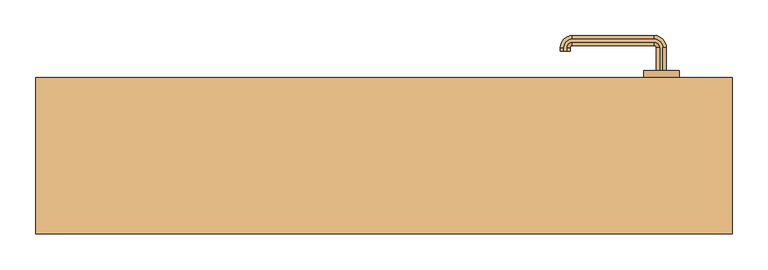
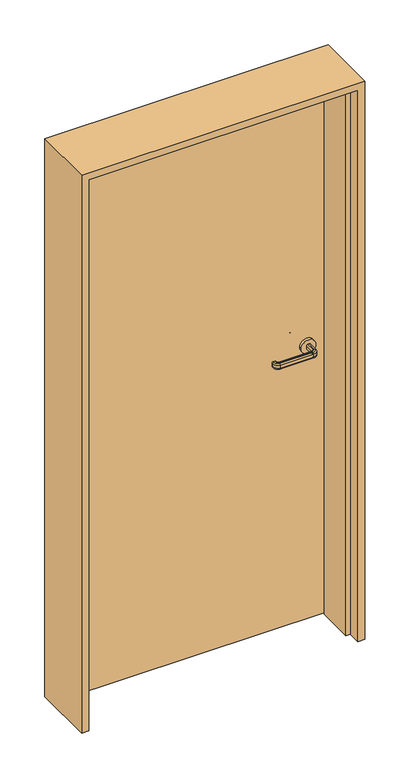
"""IFC4 building model written with IfcOpenShell, lengths in millimetres: door geometry, A1 片開 フラッシュ_A1枠 : SD13_H2000W900."""

from ifc_helpers import new_model, si_unit, point, frame, frame_2d, origin, place, context, project, spatial, polyline, circle_curve, ellipse_curve, trimmed, segment, composite_curve, outline, extrude, faceted_brep, source, transform, mapped, element, save
from ifc_brep_helpers import plane_surface, cylinder_surface, revolved_surface, advanced_brep


def door_d7f882ca(model_context):
    return source(origin(), model_context, "Body", "SolidModel", [
        advanced_brep(
        [(392.0, 120.0, 1015.0), (388.0, 120.0, 1015.0), (383.0, 120.0, 1010.0), (383.0, 120.0, 1000.0477623), (388.0, 120.0, 995.0477623), (392.0, 120.0, 995.0477623), (397.0, 120.0, 1000.0477623), (397.0, 120.0, 1010.0), (397.0, 152.5, 1010.0), (392.0, 152.5, 1015.0), (397.0, 152.5, 1000.0477623), (392.0, 152.5, 995.0477623), (388.0, 152.5, 995.0477623), (380.0, 160.5, 995.0477623), (265.0, 160.5, 995.0477623), (257.0, 152.5, 995.0477623), (257.0, 147.5, 995.0477623), (253.0, 147.5, 995.0477623), (253.0, 152.5, 995.0477623), (265.0, 164.5, 995.0477623), (380.0, 164.5, 995.0477623), (383.0, 152.5, 1000.0477623), (383.0, 152.5, 1010.0), (388.0, 152.5, 1015.0), (380.0, 164.5, 1015.0), (265.0, 164.5, 1015.0), (253.0, 152.5, 1015.0), (253.0, 147.5, 1015.0), (257.0, 147.5, 1015.0), (257.0, 152.5, 1015.0), (265.0, 160.5, 1015.0), (380.0, 160.5, 1015.0), (380.0, 169.5, 1010.0), (380.0, 169.5, 1000.0477623), (380.0, 155.5, 1000.0477623), (380.0, 155.5, 1010.0), (265.0, 169.5, 1010.0), (265.0, 169.5, 1000.0477623), (265.0, 155.5, 1000.0477623), (265.0, 155.5, 1010.0), (248.0, 152.5, 1010.0), (248.0, 152.5, 1000.0477623), (262.0, 152.5, 1000.0477623), (262.0, 152.5, 1010.0), (248.0, 147.5, 1010.0), (248.0, 147.5, 1000.0477623), (262.0, 147.5, 1000.0477623), (262.0, 147.5, 1010.0)],
        [
            (0, 1),
            (1, 2, circle_curve(frame((388.0, 120.0, 1010.0), z_axis=(0.0, -1.0, 0.0), x_axis=(1.0, 0.0, 0.0)), 5.0)),
            (2, 3),
            (3, 4, circle_curve(frame((388.0, 120.0, 1000.0477623), z_axis=(0.0, -1.0, 0.0), x_axis=(1.0, 0.0, 0.0)), 5.0)),
            (4, 5),
            (5, 6, circle_curve(frame((392.0, 120.0, 1000.0477623), z_axis=(0.0, -1.0, 0.0), x_axis=(1.0, 0.0, 0.0)), 5.0)),
            (6, 7),
            (7, 0, circle_curve(frame((392.0, 120.0, 1010.0), z_axis=(0.0, -1.0, 0.0), x_axis=(1.0, 0.0, 0.0)), 5.0)),
            (7, 8),
            (8, 9, circle_curve(frame((392.0, 152.5, 1010.0), z_axis=(0.0, -1.0, 0.0), x_axis=(1.0, 0.0, 0.0)), 5.0)),
            (9, 0),
            (6, 10),
            (10, 8),
            (5, 11),
            (11, 10, circle_curve(frame((392.0, 152.5, 1000.0477623), z_axis=(0.0, -1.0, 0.0), x_axis=(1.0, 0.0, 0.0)), 5.0)),
            (4, 12),
            (12, 13, circle_curve(frame((380.0, 152.5, 995.0477623), z_axis=(0.0, 0.0, 1.0), x_axis=(1.0, 0.0, 0.0)), 8.0)),
            (13, 14),
            (14, 15, circle_curve(frame((265.0, 152.5, 995.0477623), z_axis=(0.0, 0.0, 1.0), x_axis=(0.0, 1.0, 0.0)), 8.0)),
            (15, 16),
            (16, 17),
            (17, 18),
            (18, 19, circle_curve(frame((265.0, 152.5, 995.0477623), z_axis=(0.0, 0.0, -1.0), x_axis=(0.0, 1.0, 0.0)), 12.0)),
            (19, 20),
            (20, 11, circle_curve(frame((380.0, 152.5, 995.0477623), z_axis=(0.0, 0.0, -1.0), x_axis=(1.0, 0.0, 0.0)), 12.0)),
            (3, 21),
            (21, 12, circle_curve(frame((388.0, 152.5, 1000.0477623), z_axis=(0.0, -1.0, 0.0), x_axis=(1.0, 0.0, 0.0)), 5.0)),
            (2, 22),
            (22, 21),
            (1, 23),
            (23, 22, circle_curve(frame((388.0, 152.5, 1010.0), z_axis=(0.0, -1.0, 0.0), x_axis=(1.0, 0.0, 0.0)), 5.0)),
            (9, 24, circle_curve(frame((380.0, 152.5, 1015.0), z_axis=(0.0, 0.0, 1.0), x_axis=(1.0, 0.0, 0.0)), 12.0)),
            (24, 25),
            (25, 26, circle_curve(frame((265.0, 152.5, 1015.0), z_axis=(0.0, 0.0, 1.0), x_axis=(0.0, 1.0, 0.0)), 12.0)),
            (26, 27),
            (27, 28),
            (28, 29),
            (29, 30, circle_curve(frame((265.0, 152.5, 1015.0), z_axis=(0.0, 0.0, -1.0), x_axis=(0.0, 1.0, 0.0)), 8.0)),
            (30, 31),
            (31, 23, circle_curve(frame((380.0, 152.5, 1015.0), z_axis=(0.0, 0.0, -1.0), x_axis=(1.0, 0.0, 0.0)), 8.0)),
            (32, 24, circle_curve(frame((380.0, 164.5, 1010.0), z_axis=(1.0, 0.0, 0.0), x_axis=(0.0, 1.0, 0.0)), 5.0)),
            (8, 32, circle_curve(frame((380.0, 152.5, 1010.0), z_axis=(0.0, 0.0, 1.0), x_axis=(1.0, 0.0, 0.0)), 17.0)),
            (33, 32),
            (10, 33, circle_curve(frame((380.0, 152.5, 1000.0477623), z_axis=(0.0, 0.0, 1.0), x_axis=(1.0, 0.0, 0.0)), 17.0)),
            (20, 33, circle_curve(frame((380.0, 164.5, 1000.0477623), z_axis=(1.0, 0.0, 0.0), x_axis=(0.0, 1.0, 0.0)), 5.0)),
            (34, 13, circle_curve(frame((380.0, 160.5, 1000.0477623), z_axis=(1.0, 0.0, 0.0), x_axis=(0.0, 1.0, 0.0)), 5.0)),
            (21, 34, circle_curve(frame((380.0, 152.5, 1000.0477623), z_axis=(0.0, 0.0, 1.0), x_axis=(1.0, 0.0, 0.0)), 3.0)),
            (35, 34),
            (22, 35, circle_curve(frame((380.0, 152.5, 1010.0), z_axis=(0.0, 0.0, 1.0), x_axis=(1.0, 0.0, 0.0)), 3.0)),
            (31, 35, circle_curve(frame((380.0, 160.5, 1010.0), z_axis=(1.0, 0.0, 0.0), x_axis=(0.0, 1.0, 0.0)), 5.0)),
            (32, 36),
            (36, 25, circle_curve(frame((265.0, 164.5, 1010.0), z_axis=(1.0, 0.0, 0.0), x_axis=(0.0, 1.0, 0.0)), 5.0)),
            (33, 37),
            (37, 36),
            (19, 37, circle_curve(frame((265.0, 164.5, 1000.0477623), z_axis=(1.0, 0.0, 0.0), x_axis=(0.0, 1.0, 0.0)), 5.0)),
            (34, 38),
            (38, 14, circle_curve(frame((265.0, 160.5, 1000.0477623), z_axis=(1.0, 0.0, 0.0), x_axis=(0.0, 1.0, 0.0)), 5.0)),
            (35, 39),
            (39, 38),
            (30, 39, circle_curve(frame((265.0, 160.5, 1010.0), z_axis=(1.0, 0.0, 0.0), x_axis=(0.0, 1.0, 0.0)), 5.0)),
            (40, 26, circle_curve(frame((253.0, 152.5, 1010.0), z_axis=(0.0, 1.0, 0.0), x_axis=(-1.0, 0.0, 0.0)), 5.0)),
            (36, 40, circle_curve(frame((265.0, 152.5, 1010.0), z_axis=(0.0, 0.0, 1.0), x_axis=(0.0, 1.0, 0.0)), 17.0)),
            (41, 40),
            (37, 41, circle_curve(frame((265.0, 152.5, 1000.0477623), z_axis=(0.0, 0.0, 1.0), x_axis=(0.0, 1.0, 0.0)), 17.0)),
            (18, 41, circle_curve(frame((253.0, 152.5, 1000.0477623), z_axis=(0.0, 1.0, 0.0), x_axis=(-1.0, 0.0, 0.0)), 5.0)),
            (42, 15, circle_curve(frame((257.0, 152.5, 1000.0477623), z_axis=(0.0, 1.0, 0.0), x_axis=(-1.0, 0.0, 0.0)), 5.0)),
            (38, 42, circle_curve(frame((265.0, 152.5, 1000.0477623), z_axis=(0.0, 0.0, 1.0), x_axis=(0.0, 1.0, 0.0)), 3.0)),
            (43, 42),
            (39, 43, circle_curve(frame((265.0, 152.5, 1010.0), z_axis=(0.0, 0.0, 1.0), x_axis=(0.0, 1.0, 0.0)), 3.0)),
            (29, 43, circle_curve(frame((257.0, 152.5, 1010.0), z_axis=(0.0, 1.0, 0.0), x_axis=(-1.0, 0.0, 0.0)), 5.0)),
            (27, 44, circle_curve(frame((253.0, 147.5, 1010.0), z_axis=(0.0, -1.0, 0.0), x_axis=(-1.0, 0.0, 0.0)), 5.0)),
            (44, 45),
            (45, 17, circle_curve(frame((253.0, 147.5, 1000.0477623), z_axis=(0.0, -1.0, 0.0), x_axis=(-1.0, 0.0, 0.0)), 5.0)),
            (16, 46, circle_curve(frame((257.0, 147.5, 1000.0477623), z_axis=(0.0, -1.0, 0.0), x_axis=(-1.0, 0.0, 0.0)), 5.0)),
            (46, 47),
            (47, 28, circle_curve(frame((257.0, 147.5, 1010.0), z_axis=(0.0, -1.0, 0.0), x_axis=(-1.0, 0.0, 0.0)), 5.0)),
            (40, 44),
            (41, 45),
            (42, 46),
            (43, 47),
        ],
        [
            plane_surface(frame((400.198039, 120.0, 1005.0), z_axis=(0.0, -1.0, 0.0), x_axis=(0.0, 0.0, 1.0))),
            cylinder_surface(frame((392.0, 120.0, 1010.0), z_axis=(0.0, -1.0, 0.0), x_axis=(1.0, 0.0, 0.0)), 5.0),
            plane_surface(frame((397.0, 120.0, 1010.0), z_axis=(1.0, 0.0, 0.0), x_axis=(0.0, 1.0, 0.0))),
            cylinder_surface(frame((392.0, 120.0, 1000.0477623), z_axis=(0.0, -1.0, 0.0), x_axis=(1.0, 0.0, 0.0)), 5.0),
            plane_surface(frame((392.0, 120.0, 995.0477623), z_axis=(0.0, 0.0, -1.0), x_axis=(0.0, 1.0, 0.0))),
            cylinder_surface(frame((388.0, 120.0, 1000.0477623), z_axis=(0.0, -1.0, 0.0), x_axis=(1.0, 0.0, 0.0)), 5.0),
            plane_surface(frame((383.0, 120.0, 1000.0477623), z_axis=(-1.0, 0.0, 0.0), x_axis=(0.0, 1.0, 0.0))),
            cylinder_surface(frame((388.0, 120.0, 1010.0), z_axis=(0.0, -1.0, 0.0), x_axis=(1.0, 0.0, 0.0)), 5.0),
            plane_surface(frame((388.0, 120.0, 1015.0), z_axis=(0.0, 0.0, 1.0), x_axis=(0.0, 1.0, 0.0))),
            revolved_surface(trimmed(ellipse_curve(frame((392.0, 152.5, 1010.0), z_axis=(0.0, 1.0, 0.0), x_axis=(1.0, 0.0, 0.0)), 5.0, 5.0), [point((392.0, 152.5, 1015.0))], [point((397.0, 152.5, 1010.0))], True, "CARTESIAN"), (380.0, 152.5, 1005.0), (0.0, 0.0, -1.0)),
            cylinder_surface(frame((380.0, 152.5, 1005.0), z_axis=(0.0, 0.0, -1.0), x_axis=(1.0, 0.0, 0.0)), 17.0),
            revolved_surface(trimmed(ellipse_curve(frame((392.0, 152.5, 1000.0477623), z_axis=(0.0, 1.0, 0.0), x_axis=(1.0, 0.0, 0.0)), 5.0, 5.0), [point((397.0, 152.5, 1000.0477623))], [point((392.0, 152.5, 995.0477623))], True, "CARTESIAN"), (380.0, 152.5, 1005.0), (0.0, 0.0, -1.0)),
            revolved_surface(trimmed(ellipse_curve(frame((388.0, 152.5, 1000.0477623), z_axis=(0.0, 1.0, 0.0), x_axis=(1.0, 0.0, 0.0)), 5.0, 5.0), [point((388.0, 152.5, 995.0477623))], [point((383.0, 152.5, 1000.0477623))], True, "CARTESIAN"), (380.0, 152.5, 1005.0), (0.0, 0.0, -1.0)),
            revolved_surface(polyline([(383.0, 152.5, 1000.0477623), (383.0, 152.5, 1010.0)]), (380.0, 152.5, 1005.0), (0.0, 0.0, -1.0)),
            revolved_surface(trimmed(ellipse_curve(frame((388.0, 152.5, 1010.0), z_axis=(0.0, 1.0, 0.0), x_axis=(1.0, 0.0, 0.0)), 5.0, 5.0), [point((383.0, 152.5, 1010.0))], [point((388.0, 152.5, 1015.0))], True, "CARTESIAN"), (380.0, 152.5, 1005.0), (0.0, 0.0, -1.0)),
            cylinder_surface(frame((380.0, 164.5, 1010.0), z_axis=(1.0, 0.0, 0.0), x_axis=(0.0, 1.0, 0.0)), 5.0),
            plane_surface(frame((380.0, 169.5, 1010.0), z_axis=(0.0, 1.0, 0.0), x_axis=(-1.0, 0.0, 0.0))),
            cylinder_surface(frame((380.0, 164.5, 1000.0477623), z_axis=(1.0, 0.0, 0.0), x_axis=(0.0, 1.0, 0.0)), 5.0),
            cylinder_surface(frame((380.0, 160.5, 1000.0477623), z_axis=(1.0, 0.0, 0.0), x_axis=(0.0, 1.0, 0.0)), 5.0),
            plane_surface(frame((380.0, 155.5, 1000.0477623), z_axis=(0.0, -1.0, 0.0), x_axis=(-1.0, 0.0, 0.0))),
            cylinder_surface(frame((380.0, 160.5, 1010.0), z_axis=(1.0, 0.0, 0.0), x_axis=(0.0, 1.0, 0.0)), 5.0),
            revolved_surface(trimmed(ellipse_curve(frame((265.0, 164.5, 1010.0), z_axis=(-1.0, 0.0, 0.0), x_axis=(0.0, 1.0, 0.0)), 5.0, 5.0), [point((265.0, 164.5, 1015.0))], [point((265.0, 169.5, 1010.0))], True, "CARTESIAN"), (265.0, 152.5, 1005.0), (0.0, 0.0, -1.0)),
            cylinder_surface(frame((265.0, 152.5, 1005.0), z_axis=(0.0, 0.0, -1.0), x_axis=(0.0, 1.0, 0.0)), 17.0),
            revolved_surface(trimmed(ellipse_curve(frame((265.0, 164.5, 1000.0477623), z_axis=(-1.0, 0.0, 0.0), x_axis=(0.0, 1.0, 0.0)), 5.0, 5.0), [point((265.0, 169.5, 1000.0477623))], [point((265.0, 164.5, 995.0477623))], True, "CARTESIAN"), (265.0, 152.5, 1005.0), (0.0, 0.0, -1.0)),
            revolved_surface(trimmed(ellipse_curve(frame((265.0, 160.5, 1000.0477623), z_axis=(-1.0, 0.0, 0.0), x_axis=(0.0, 1.0, 0.0)), 5.0, 5.0), [point((265.0, 160.5, 995.0477623))], [point((265.0, 155.5, 1000.0477623))], True, "CARTESIAN"), (265.0, 152.5, 1005.0), (0.0, 0.0, -1.0)),
            revolved_surface(polyline([(265.0, 155.5, 1000.0477623), (265.0, 155.5, 1010.0)]), (265.0, 152.5, 1005.0), (0.0, 0.0, -1.0)),
            revolved_surface(trimmed(ellipse_curve(frame((265.0, 160.5, 1010.0), z_axis=(-1.0, 0.0, 0.0), x_axis=(0.0, 1.0, 0.0)), 5.0, 5.0), [point((265.0, 155.5, 1010.0))], [point((265.0, 160.5, 1015.0))], True, "CARTESIAN"), (265.0, 152.5, 1005.0), (0.0, 0.0, -1.0)),
            plane_surface(frame((265.198039, 147.5, 1005.0), z_axis=(0.0, -1.0, 0.0), x_axis=(0.0, 0.0, -1.0))),
            cylinder_surface(frame((253.0, 152.5, 1010.0), z_axis=(0.0, 1.0, 0.0), x_axis=(-1.0, 0.0, 0.0)), 5.0),
            plane_surface(frame((248.0, 152.5, 1010.0), z_axis=(-1.0, 0.0, 0.0), x_axis=(0.0, -1.0, 0.0))),
            cylinder_surface(frame((253.0, 152.5, 1000.0477623), z_axis=(0.0, 1.0, 0.0), x_axis=(-1.0, 0.0, 0.0)), 5.0),
            cylinder_surface(frame((257.0, 152.5, 1000.0477623), z_axis=(0.0, 1.0, 0.0), x_axis=(-1.0, 0.0, 0.0)), 5.0),
            plane_surface(frame((262.0, 152.5, 1000.0477623), z_axis=(1.0, 0.0, 0.0), x_axis=(0.0, -1.0, 0.0))),
            cylinder_surface(frame((257.0, 152.5, 1010.0), z_axis=(0.0, 1.0, 0.0), x_axis=(-1.0, 0.0, 0.0)), 5.0),
        ],
        [
            (0, [[1, 2, 3, 4, 5, 6, 7, 8]]),
            (1, [[9, 10, 11, -8]]),
            (2, [[12, 13, -9, -7]]),
            (3, [[14, 15, -12, -6]]),
            (4, [[16, 17, 18, 19, 20, 21, 22, 23, 24, 25, -14, -5]]),
            (5, [[26, 27, -16, -4]]),
            (6, [[28, 29, -26, -3]]),
            (7, [[30, 31, -28, -2]]),
            (8, [[-11, 32, 33, 34, 35, 36, 37, 38, 39, 40, -30, -1]]),
            (9, [[41, -32, -10, 42]]),
            (10, [[43, -42, -13, 44]]),
            (11, [[45, -44, -15, -25]]),
            (12, [[46, -17, -27, 47]]),
            (13, [[48, -47, -29, 49]]),
            (14, [[50, -49, -31, -40]]),
            (15, [[51, 52, -33, -41]]),
            (16, [[53, 54, -51, -43]]),
            (17, [[-24, 55, -53, -45]]),
            (18, [[56, 57, -18, -46]]),
            (19, [[58, 59, -56, -48]]),
            (20, [[-39, 60, -58, -50]]),
            (21, [[61, -34, -52, 62]]),
            (22, [[63, -62, -54, 64]]),
            (23, [[65, -64, -55, -23]]),
            (24, [[66, -19, -57, 67]]),
            (25, [[68, -67, -59, 69]]),
            (26, [[70, -69, -60, -38]]),
            (27, [[71, 72, 73, -21, 74, 75, 76, -36]]),
            (28, [[77, -71, -35, -61]]),
            (29, [[78, -72, -77, -63]]),
            (30, [[-22, -73, -78, -65]]),
            (31, [[79, -74, -20, -66]]),
            (32, [[80, -75, -79, -68]]),
            (33, [[-37, -76, -80, -70]]),
        ],
    ),
        advanced_brep(
        [(388.0, 55.0, 995.0), (383.0, 55.0, 1000.0), (383.0, 55.0, 1010.0), (388.0, 55.0, 1015.0), (392.0, 55.0, 1015.0), (397.0, 55.0, 1010.0), (397.0, 55.0, 1000.0), (392.0, 55.0, 995.0), (392.0, 22.5, 995.0), (380.0, 10.5, 995.0), (265.0, 10.5, 995.0), (253.0, 22.5, 995.0), (253.0, 27.5, 995.0), (257.0, 27.5, 995.0), (257.0, 22.5, 995.0), (265.0, 14.5, 995.0), (380.0, 14.5, 995.0), (388.0, 22.5, 995.0), (397.0, 22.5, 1000.0), (397.0, 22.5, 1010.0), (392.0, 22.5, 1015.0), (388.0, 22.5, 1015.0), (380.0, 14.5, 1015.0), (265.0, 14.5, 1015.0), (257.0, 22.5, 1015.0), (257.0, 27.5, 1015.0), (253.0, 27.5, 1015.0), (253.0, 22.5, 1015.0), (265.0, 10.5, 1015.0), (380.0, 10.5, 1015.0), (383.0, 22.5, 1010.0), (383.0, 22.5, 1000.0), (380.0, 5.5, 1000.0), (380.0, 5.5, 1010.0), (380.0, 19.5, 1010.0), (380.0, 19.5, 1000.0), (265.0, 5.5, 1000.0), (265.0, 5.5, 1010.0), (265.0, 19.5, 1010.0), (265.0, 19.5, 1000.0), (248.0, 22.5, 1000.0), (248.0, 22.5, 1010.0), (262.0, 22.5, 1010.0), (262.0, 22.5, 1000.0), (248.0, 27.5, 1000.0), (248.0, 27.5, 1010.0), (262.0, 27.5, 1010.0), (262.0, 27.5, 1000.0)],
        [
            (0, 1, circle_curve(frame((388.0, 55.0, 1000.0), z_axis=(0.0, 1.0, 0.0), x_axis=(-1.0, 0.0, 0.0)), 5.0)),
            (1, 2),
            (2, 3, circle_curve(frame((388.0, 55.0, 1010.0), z_axis=(0.0, 1.0, 0.0), x_axis=(-1.0, 0.0, 0.0)), 5.0)),
            (3, 4),
            (4, 5, circle_curve(frame((392.0, 55.0, 1010.0), z_axis=(0.0, 1.0, 0.0), x_axis=(-1.0, 0.0, 0.0)), 5.0)),
            (5, 6),
            (6, 7, circle_curve(frame((392.0, 55.0, 1000.0), z_axis=(0.0, 1.0, 0.0), x_axis=(-1.0, 0.0, 0.0)), 5.0)),
            (7, 0),
            (7, 8),
            (8, 9, circle_curve(frame((380.0, 22.5, 995.0), z_axis=(0.0, 0.0, -1.0), x_axis=(1.0, 0.0, 0.0)), 12.0)),
            (9, 10),
            (10, 11, circle_curve(frame((265.0, 22.5, 995.0), z_axis=(0.0, 0.0, -1.0), x_axis=(0.0, -1.0, 0.0)), 12.0)),
            (11, 12),
            (12, 13),
            (13, 14),
            (14, 15, circle_curve(frame((265.0, 22.5, 995.0), z_axis=(0.0, 0.0, 1.0), x_axis=(0.0, -1.0, 0.0)), 8.0)),
            (15, 16),
            (16, 17, circle_curve(frame((380.0, 22.5, 995.0), z_axis=(0.0, 0.0, 1.0), x_axis=(1.0, 0.0, 0.0)), 8.0)),
            (17, 0),
            (6, 18),
            (18, 8, circle_curve(frame((392.0, 22.5, 1000.0), z_axis=(0.0, 1.0, 0.0), x_axis=(-1.0, 0.0, 0.0)), 5.0)),
            (5, 19),
            (19, 18),
            (4, 20),
            (20, 19, circle_curve(frame((392.0, 22.5, 1010.0), z_axis=(0.0, 1.0, 0.0), x_axis=(-1.0, 0.0, 0.0)), 5.0)),
            (3, 21),
            (21, 22, circle_curve(frame((380.0, 22.5, 1015.0), z_axis=(0.0, 0.0, -1.0), x_axis=(1.0, 0.0, 0.0)), 8.0)),
            (22, 23),
            (23, 24, circle_curve(frame((265.0, 22.5, 1015.0), z_axis=(0.0, 0.0, -1.0), x_axis=(0.0, -1.0, 0.0)), 8.0)),
            (24, 25),
            (25, 26),
            (26, 27),
            (27, 28, circle_curve(frame((265.0, 22.5, 1015.0), z_axis=(0.0, 0.0, 1.0), x_axis=(0.0, -1.0, 0.0)), 12.0)),
            (28, 29),
            (29, 20, circle_curve(frame((380.0, 22.5, 1015.0), z_axis=(0.0, 0.0, 1.0), x_axis=(1.0, 0.0, 0.0)), 12.0)),
            (2, 30),
            (30, 21, circle_curve(frame((388.0, 22.5, 1010.0), z_axis=(0.0, 1.0, 0.0), x_axis=(-1.0, 0.0, 0.0)), 5.0)),
            (1, 31),
            (31, 30),
            (17, 31, circle_curve(frame((388.0, 22.5, 1000.0), z_axis=(0.0, 1.0, 0.0), x_axis=(-1.0, 0.0, 0.0)), 5.0)),
            (32, 9, circle_curve(frame((380.0, 10.5, 1000.0), z_axis=(1.0, 0.0, 0.0), x_axis=(0.0, 1.0, 0.0)), 5.0)),
            (18, 32, circle_curve(frame((380.0, 22.5, 1000.0), z_axis=(0.0, 0.0, -1.0), x_axis=(1.0, 0.0, 0.0)), 17.0)),
            (33, 32),
            (19, 33, circle_curve(frame((380.0, 22.5, 1010.0), z_axis=(0.0, 0.0, -1.0), x_axis=(1.0, 0.0, 0.0)), 17.0)),
            (29, 33, circle_curve(frame((380.0, 10.5, 1010.0), z_axis=(1.0, 0.0, 0.0), x_axis=(0.0, 1.0, 0.0)), 5.0)),
            (34, 22, circle_curve(frame((380.0, 14.5, 1010.0), z_axis=(1.0, 0.0, 0.0), x_axis=(0.0, 1.0, 0.0)), 5.0)),
            (30, 34, circle_curve(frame((380.0, 22.5, 1010.0), z_axis=(0.0, 0.0, -1.0), x_axis=(1.0, 0.0, 0.0)), 3.0)),
            (35, 34),
            (31, 35, circle_curve(frame((380.0, 22.5, 1000.0), z_axis=(0.0, 0.0, -1.0), x_axis=(1.0, 0.0, 0.0)), 3.0)),
            (16, 35, circle_curve(frame((380.0, 14.5, 1000.0), z_axis=(1.0, 0.0, 0.0), x_axis=(0.0, 1.0, 0.0)), 5.0)),
            (32, 36),
            (36, 10, circle_curve(frame((265.0, 10.5, 1000.0), z_axis=(1.0, 0.0, 0.0), x_axis=(0.0, 1.0, 0.0)), 5.0)),
            (33, 37),
            (37, 36),
            (28, 37, circle_curve(frame((265.0, 10.5, 1010.0), z_axis=(1.0, 0.0, 0.0), x_axis=(0.0, 1.0, 0.0)), 5.0)),
            (34, 38),
            (38, 23, circle_curve(frame((265.0, 14.5, 1010.0), z_axis=(1.0, 0.0, 0.0), x_axis=(0.0, 1.0, 0.0)), 5.0)),
            (35, 39),
            (39, 38),
            (15, 39, circle_curve(frame((265.0, 14.5, 1000.0), z_axis=(1.0, 0.0, 0.0), x_axis=(0.0, 1.0, 0.0)), 5.0)),
            (40, 11, circle_curve(frame((253.0, 22.5, 1000.0), z_axis=(0.0, -1.0, 0.0), x_axis=(1.0, 0.0, 0.0)), 5.0)),
            (36, 40, circle_curve(frame((265.0, 22.5, 1000.0), z_axis=(0.0, 0.0, -1.0), x_axis=(0.0, -1.0, 0.0)), 17.0)),
            (41, 40),
            (37, 41, circle_curve(frame((265.0, 22.5, 1010.0), z_axis=(0.0, 0.0, -1.0), x_axis=(0.0, -1.0, 0.0)), 17.0)),
            (27, 41, circle_curve(frame((253.0, 22.5, 1010.0), z_axis=(0.0, -1.0, 0.0), x_axis=(1.0, 0.0, 0.0)), 5.0)),
            (42, 24, circle_curve(frame((257.0, 22.5, 1010.0), z_axis=(0.0, -1.0, 0.0), x_axis=(1.0, 0.0, 0.0)), 5.0)),
            (38, 42, circle_curve(frame((265.0, 22.5, 1010.0), z_axis=(0.0, 0.0, -1.0), x_axis=(0.0, -1.0, 0.0)), 3.0)),
            (43, 42),
            (39, 43, circle_curve(frame((265.0, 22.5, 1000.0), z_axis=(0.0, 0.0, -1.0), x_axis=(0.0, -1.0, 0.0)), 3.0)),
            (14, 43, circle_curve(frame((257.0, 22.5, 1000.0), z_axis=(0.0, -1.0, 0.0), x_axis=(1.0, 0.0, 0.0)), 5.0)),
            (12, 44, circle_curve(frame((253.0, 27.5, 1000.0), z_axis=(0.0, 1.0, 0.0), x_axis=(1.0, 0.0, 0.0)), 5.0)),
            (44, 45),
            (45, 26, circle_curve(frame((253.0, 27.5, 1010.0), z_axis=(0.0, 1.0, 0.0), x_axis=(1.0, 0.0, 0.0)), 5.0)),
            (25, 46, circle_curve(frame((257.0, 27.5, 1010.0), z_axis=(0.0, 1.0, 0.0), x_axis=(1.0, 0.0, 0.0)), 5.0)),
            (46, 47),
            (47, 13, circle_curve(frame((257.0, 27.5, 1000.0), z_axis=(0.0, 1.0, 0.0), x_axis=(1.0, 0.0, 0.0)), 5.0)),
            (40, 44),
            (41, 45),
            (42, 46),
            (43, 47),
        ],
        [
            plane_surface(frame((400.198039, 55.0, 1005.0), z_axis=(0.0, 1.0, 0.0), x_axis=(0.0, 0.0, -1.0))),
            plane_surface(frame((388.0, 55.0, 995.0), z_axis=(0.0, 0.0, -1.0), x_axis=(0.0, -1.0, 0.0))),
            cylinder_surface(frame((392.0, 55.0, 1000.0), z_axis=(0.0, 1.0, 0.0), x_axis=(-1.0, 0.0, 0.0)), 5.0),
            plane_surface(frame((397.0, 55.0, 1000.0), z_axis=(1.0, 0.0, 0.0), x_axis=(0.0, -1.0, 0.0))),
            cylinder_surface(frame((392.0, 55.0, 1010.0), z_axis=(0.0, 1.0, 0.0), x_axis=(-1.0, 0.0, 0.0)), 5.0),
            plane_surface(frame((392.0, 55.0, 1015.0), z_axis=(0.0, 0.0, 1.0), x_axis=(0.0, -1.0, 0.0))),
            cylinder_surface(frame((388.0, 55.0, 1010.0), z_axis=(0.0, 1.0, 0.0), x_axis=(-1.0, 0.0, 0.0)), 5.0),
            plane_surface(frame((383.0, 55.0, 1010.0), z_axis=(-1.0, 0.0, 0.0), x_axis=(0.0, -1.0, 0.0))),
            cylinder_surface(frame((388.0, 55.0, 1000.0), z_axis=(0.0, 1.0, 0.0), x_axis=(-1.0, 0.0, 0.0)), 5.0),
            revolved_surface(trimmed(ellipse_curve(frame((392.0, 22.5, 1000.0), z_axis=(0.0, -1.0, 0.0), x_axis=(-1.0, 0.0, 0.0)), 5.0, 5.0), [point((392.0, 22.5, 995.0))], [point((397.0, 22.5, 1000.0))], True, "CARTESIAN"), (380.0, 22.5, 1005.0), (0.0, 0.0, 1.0)),
            cylinder_surface(frame((380.0, 22.5, 1005.0), z_axis=(0.0, 0.0, 1.0), x_axis=(1.0, 0.0, 0.0)), 17.0),
            revolved_surface(trimmed(ellipse_curve(frame((392.0, 22.5, 1010.0), z_axis=(0.0, -1.0, 0.0), x_axis=(-1.0, 0.0, 0.0)), 5.0, 5.0), [point((397.0, 22.5, 1010.0))], [point((392.0, 22.5, 1015.0))], True, "CARTESIAN"), (380.0, 22.5, 1005.0), (0.0, 0.0, 1.0)),
            revolved_surface(trimmed(ellipse_curve(frame((388.0, 22.5, 1010.0), z_axis=(0.0, -1.0, 0.0), x_axis=(-1.0, 0.0, 0.0)), 5.0, 5.0), [point((388.0, 22.5, 1015.0))], [point((383.0, 22.5, 1010.0))], True, "CARTESIAN"), (380.0, 22.5, 1005.0), (0.0, 0.0, 1.0)),
            revolved_surface(polyline([(383.0, 22.5, 1010.0), (383.0, 22.5, 1000.0)]), (380.0, 22.5, 1005.0), (0.0, 0.0, 1.0)),
            revolved_surface(trimmed(ellipse_curve(frame((388.0, 22.5, 1000.0), z_axis=(0.0, -1.0, 0.0), x_axis=(-1.0, 0.0, 0.0)), 5.0, 5.0), [point((383.0, 22.5, 1000.0))], [point((388.0, 22.5, 995.0))], True, "CARTESIAN"), (380.0, 22.5, 1005.0), (0.0, 0.0, 1.0)),
            cylinder_surface(frame((380.0, 10.5, 1000.0), z_axis=(1.0, 0.0, 0.0), x_axis=(0.0, 1.0, 0.0)), 5.0),
            plane_surface(frame((380.0, 5.5, 1000.0), z_axis=(0.0, -1.0, 0.0), x_axis=(-1.0, 0.0, 0.0))),
            cylinder_surface(frame((380.0, 10.5, 1010.0), z_axis=(1.0, 0.0, 0.0), x_axis=(0.0, 1.0, 0.0)), 5.0),
            cylinder_surface(frame((380.0, 14.5, 1010.0), z_axis=(1.0, 0.0, 0.0), x_axis=(0.0, 1.0, 0.0)), 5.0),
            plane_surface(frame((380.0, 19.5, 1010.0), z_axis=(0.0, 1.0, 0.0), x_axis=(-1.0, 0.0, 0.0))),
            cylinder_surface(frame((380.0, 14.5, 1000.0), z_axis=(1.0, 0.0, 0.0), x_axis=(0.0, 1.0, 0.0)), 5.0),
            revolved_surface(trimmed(ellipse_curve(frame((265.0, 10.5, 1000.0), z_axis=(-1.0, 0.0, 0.0), x_axis=(0.0, 1.0, 0.0)), 5.0, 5.0), [point((265.0, 10.5, 995.0))], [point((265.0, 5.5, 1000.0))], True, "CARTESIAN"), (265.0, 22.5, 1005.0), (0.0, 0.0, 1.0)),
            cylinder_surface(frame((265.0, 22.5, 1005.0), z_axis=(0.0, 0.0, 1.0), x_axis=(0.0, -1.0, 0.0)), 17.0),
            revolved_surface(trimmed(ellipse_curve(frame((265.0, 10.5, 1010.0), z_axis=(-1.0, 0.0, 0.0), x_axis=(0.0, 1.0, 0.0)), 5.0, 5.0), [point((265.0, 5.5, 1010.0))], [point((265.0, 10.5, 1015.0))], True, "CARTESIAN"), (265.0, 22.5, 1005.0), (0.0, 0.0, 1.0)),
            revolved_surface(trimmed(ellipse_curve(frame((265.0, 14.5, 1010.0), z_axis=(-1.0, 0.0, 0.0), x_axis=(0.0, 1.0, 0.0)), 5.0, 5.0), [point((265.0, 14.5, 1015.0))], [point((265.0, 19.5, 1010.0))], True, "CARTESIAN"), (265.0, 22.5, 1005.0), (0.0, 0.0, 1.0)),
            revolved_surface(polyline([(265.0, 19.5, 1010.0), (265.0, 19.5, 1000.0)]), (265.0, 22.5, 1005.0), (0.0, 0.0, 1.0)),
            revolved_surface(trimmed(ellipse_curve(frame((265.0, 14.5, 1000.0), z_axis=(-1.0, 0.0, 0.0), x_axis=(0.0, 1.0, 0.0)), 5.0, 5.0), [point((265.0, 19.5, 1000.0))], [point((265.0, 14.5, 995.0))], True, "CARTESIAN"), (265.0, 22.5, 1005.0), (0.0, 0.0, 1.0)),
            plane_surface(frame((265.198039, 27.5, 1005.0), z_axis=(0.0, 1.0, 0.0), x_axis=(0.0, 0.0, 1.0))),
            cylinder_surface(frame((253.0, 22.5, 1000.0), z_axis=(0.0, -1.0, 0.0), x_axis=(1.0, 0.0, 0.0)), 5.0),
            plane_surface(frame((248.0, 22.5, 1000.0), z_axis=(-1.0, 0.0, 0.0), x_axis=(0.0, 1.0, 0.0))),
            cylinder_surface(frame((253.0, 22.5, 1010.0), z_axis=(0.0, -1.0, 0.0), x_axis=(1.0, 0.0, 0.0)), 5.0),
            cylinder_surface(frame((257.0, 22.5, 1010.0), z_axis=(0.0, -1.0, 0.0), x_axis=(1.0, 0.0, 0.0)), 5.0),
            plane_surface(frame((262.0, 22.5, 1010.0), z_axis=(1.0, 0.0, 0.0), x_axis=(0.0, 1.0, 0.0))),
            cylinder_surface(frame((257.0, 22.5, 1000.0), z_axis=(0.0, -1.0, 0.0), x_axis=(1.0, 0.0, 0.0)), 5.0),
        ],
        [
            (0, [[1, 2, 3, 4, 5, 6, 7, 8]]),
            (1, [[9, 10, 11, 12, 13, 14, 15, 16, 17, 18, 19, -8]]),
            (2, [[20, 21, -9, -7]]),
            (3, [[22, 23, -20, -6]]),
            (4, [[24, 25, -22, -5]]),
            (5, [[26, 27, 28, 29, 30, 31, 32, 33, 34, 35, -24, -4]]),
            (6, [[36, 37, -26, -3]]),
            (7, [[38, 39, -36, -2]]),
            (8, [[-19, 40, -38, -1]]),
            (9, [[41, -10, -21, 42]]),
            (10, [[43, -42, -23, 44]]),
            (11, [[45, -44, -25, -35]]),
            (12, [[46, -27, -37, 47]]),
            (13, [[48, -47, -39, 49]]),
            (14, [[50, -49, -40, -18]]),
            (15, [[51, 52, -11, -41]]),
            (16, [[53, 54, -51, -43]]),
            (17, [[-34, 55, -53, -45]]),
            (18, [[56, 57, -28, -46]]),
            (19, [[58, 59, -56, -48]]),
            (20, [[-17, 60, -58, -50]]),
            (21, [[61, -12, -52, 62]]),
            (22, [[63, -62, -54, 64]]),
            (23, [[65, -64, -55, -33]]),
            (24, [[66, -29, -57, 67]]),
            (25, [[68, -67, -59, 69]]),
            (26, [[70, -69, -60, -16]]),
            (27, [[-14, 71, 72, 73, -31, 74, 75, 76]]),
            (28, [[77, -71, -13, -61]]),
            (29, [[78, -72, -77, -63]]),
            (30, [[-32, -73, -78, -65]]),
            (31, [[79, -74, -30, -66]]),
            (32, [[80, -75, -79, -68]]),
            (33, [[-15, -76, -80, -70]]),
        ],
    ),
        extrude(outline(composite_curve([segment(trimmed(circle_curve(frame_2d((1005.0, 390.0)), 25.0), [point((1005.0, 415.0))], [point((1005.0, 365.0))], False, "CARTESIAN"), True, "CONTINUOUS"), segment(trimmed(circle_curve(frame_2d((1005.0, 390.0)), 25.0), [point((1005.0, 365.0))], [point((1005.0, 415.0))], False, "CARTESIAN"), True, "CONTINUOUS")], self_intersect=False)), frame((0.0, 110.0, 0.0), z_axis=(0.0, 1.0, 0.0), x_axis=(0.0, 0.0, 1.0)), (0.0, 0.0, 1.0), 10.0),
        extrude(outline(composite_curve([segment(trimmed(circle_curve(frame_2d((1005.0, 390.0)), 25.0), [point((1005.0, 415.0))], [point((1005.0, 365.0))], False, "CARTESIAN"), True, "CONTINUOUS"), segment(trimmed(circle_curve(frame_2d((1005.0, 390.0)), 25.0), [point((1005.0, 365.0))], [point((1005.0, 415.0))], False, "CARTESIAN"), True, "CONTINUOUS")], self_intersect=False)), frame((0.0, 55.0, 0.0), z_axis=(0.0, 1.0, 0.0), x_axis=(0.0, 0.0, 1.0)), (0.0, 0.0, 1.0), 10.0),
        extrude(outline(polyline([(-465.0, 65.0), (-465.0, 110.0), (465.0, 110.0), (465.0, 65.0), (-465.0, 65.0)])), frame((0.0, 0.0, 5.0), z_axis=(0.0, 0.0, 1.0), x_axis=(1.0, 0.0, 0.0)), (0.0, 0.0, 1.0), 2010.0),
        faceted_brep([(-490.0, 110.0, 0.0), (-465.0, 110.0, 0.0), (-465.0, 65.0, 0.0), (-450.0, 65.0, 0.0), (-450.0, -65.0, 0.0), (-465.0, -65.0, 0.0), (-465.0, -110.0, 0.0), (-490.0, -110.0, 0.0), (-490.0, 110.0, 2040.0), (490.0, 110.0, 2040.0), (490.0, 110.0, 0.0), (465.0, 110.0, 0.0), (465.0, 110.0, 2015.0), (-465.0, 110.0, 2015.0), (-465.0, 65.0, 2015.0), (465.0, 65.0, 2015.0), (465.0, 65.0, 0.0), (450.0, 65.0, 0.0), (450.0, 65.0, 2000.0), (-450.0, 65.0, 2000.0), (-450.0, -65.0, 2000.0), (450.0, -65.0, 2000.0), (450.0, -65.0, 0.0), (465.0, -65.0, 0.0), (465.0, -65.0, 2015.0), (-465.0, -65.0, 2015.0), (-465.0, -110.0, 2015.0), (465.0, -110.0, 2015.0), (465.0, -110.0, 0.0), (490.0, -110.0, 0.0), (490.0, -110.0, 2040.0), (-490.0, -110.0, 2040.0)], [[[0, 1, 2, 3, 4, 5, 6, 7]], [[1, 0, 8, 9, 10, 11, 12, 13]], [[2, 1, 13, 14]], [[3, 2, 14, 15, 16, 17, 18, 19]], [[4, 3, 19, 20]], [[5, 4, 20, 21, 22, 23, 24, 25]], [[6, 5, 25, 26]], [[7, 6, 26, 27, 28, 29, 30, 31]], [[0, 7, 31, 8]], [[14, 13, 12, 15]], [[20, 19, 18, 21]], [[26, 25, 24, 27]], [[8, 31, 30, 9]], [[10, 29, 28, 23, 22, 17, 16, 11]], [[15, 12, 11, 16]], [[21, 18, 17, 22]], [[27, 24, 23, 28]], [[9, 30, 29, 10]]]),
    ])


if __name__ == "__main__":
    model = new_model("IFC4")
    model_context = context("Model", 3, world=origin())
    ifc_project = project(units=[si_unit("LENGTHUNIT", "METRE", prefix="MILLI")], contexts=[model_context])
    site = spatial("IfcSite", under=ifc_project)
    building = spatial("IfcBuilding", under=site)
    placement = place(None, origin())
    door_shape = door_d7f882ca(model_context)
    element("IfcDoor", 1, ObjectType="A1 片開 フラッシュ_A1枠 : SD13_H2000W900", at=placement, inside=building, context=model_context, shape_type="MappedRepresentation", body=[
        mapped(door_shape, transform((0.0, 0.0, 0.0), x_axis=(1.0, 0.0, 0.0), y_axis=(0.0, 1.0, 0.0), z_axis=(0.0, 0.0, 1.0))),
    ])
    save(model, "model.ifc")
